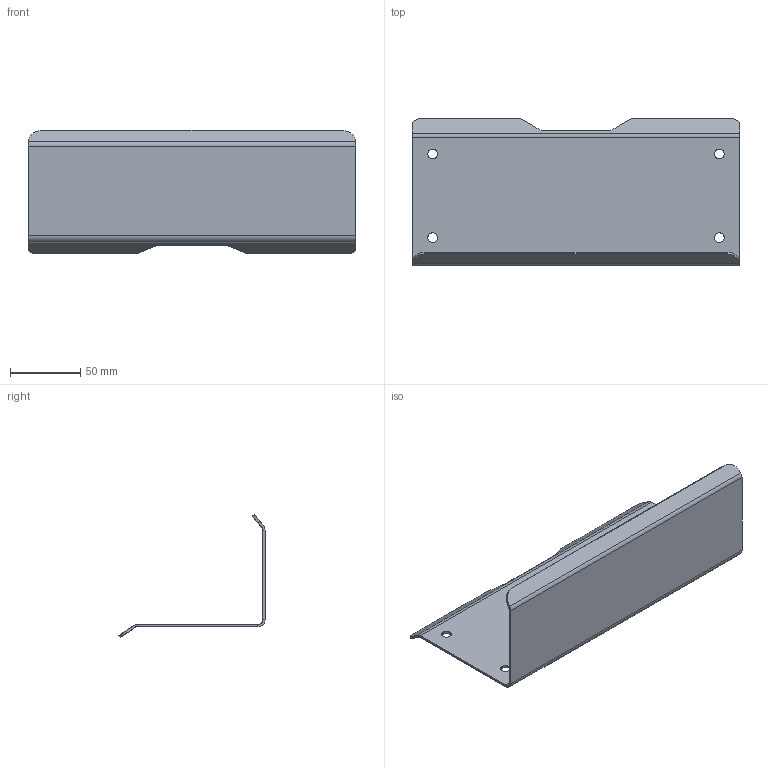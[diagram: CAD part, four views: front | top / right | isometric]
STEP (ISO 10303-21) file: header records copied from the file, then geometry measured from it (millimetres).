
FILE_DESCRIPTION (( 'STEP AP214' ), '1' );
FILE_NAME ('MONO_038-p103_02.STEP', '2026-03-17T07:29:31', ( '' ), ( '' ), 'SwSTEP 2.0', 'SolidWorks 2024', '' );
FILE_SCHEMA (( 'AUTOMOTIVE_DESIGN' ));
Length unit declared in the file: millimetre
Products named in the file (1): MONO_038-p103_02
Bounding box: 232.8 x 104.1 x 87.74 mm (x, y, z)
Volume: 67471.5 mm3; surface area: 85805.6 mm2
Topology: 1 solids, 1 shells, 46 faces, 108 edges, 64 vertices
Faces by surface type: plane 28, cylinder 18
Full cylindrical faces by diameter (mm): 7 x4
Entity records: 1315 total; most frequent: DIRECTION 234, CARTESIAN_POINT 215, ORIENTED_EDGE 208, EDGE_CURVE 104, AXIS2_PLACEMENT_3D 83, LINE 68, VECTOR 68, VERTEX_POINT 64
